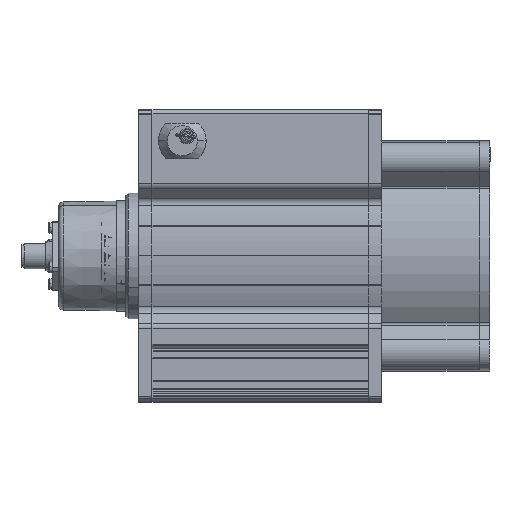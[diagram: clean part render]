
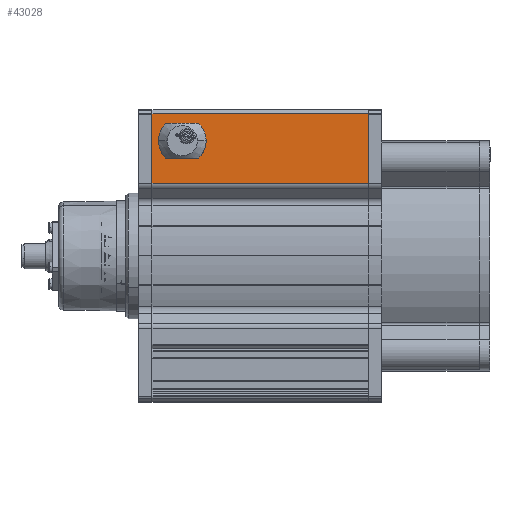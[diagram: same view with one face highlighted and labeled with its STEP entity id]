
A CAD part, top view. The second image highlights one B-rep face of the part: STEP entity #43028.
In plain terms, the highlighted planar face has unit normal (0, 0, 1).
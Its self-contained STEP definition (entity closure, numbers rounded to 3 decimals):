
#1609 = DIRECTION ( 'NONE',  ( -1., 0., 0. ) ) ;
#1610 = DIRECTION ( 'NONE',  ( 0., 0., 1. ) ) ;
#1611 = CARTESIAN_POINT ( 'NONE',  ( -59.635, 236.609, 11.701 ) ) ;
#1612 = AXIS2_PLACEMENT_3D ( 'NONE', #1611, #1610, #1609 ) ;
#1613 = CIRCLE ( 'NONE', #1612, 1.6 ) ;
#1689 = DIRECTION ( 'NONE',  ( -1., 0., 0. ) ) ;
#1690 = DIRECTION ( 'NONE',  ( 0., 0., 1. ) ) ;
#1691 = CARTESIAN_POINT ( 'NONE',  ( -76.135, 236.609, 11.701 ) ) ;
#1692 = AXIS2_PLACEMENT_3D ( 'NONE', #1691, #1690, #1689 ) ;
#1693 = CIRCLE ( 'NONE', #1692, 1.6 ) ;
#9423 = CARTESIAN_POINT ( 'NONE',  ( -81.885, 216.996, 11.701 ) ) ;
#9998 = CARTESIAN_POINT ( 'NONE',  ( -81.885, 249.136, 11.701 ) ) ;
#9999 = DIRECTION ( 'NONE',  ( 0., 1., 0. ) ) ;
#10000 = VECTOR ( 'NONE', #9999, 1000. ) ;
#10001 = CARTESIAN_POINT ( 'NONE',  ( 18.115, 216.996, 11.701 ) ) ;
#10002 = LINE ( 'NONE', #10001, #10000 ) ;
#10003 = DIRECTION ( 'NONE',  ( 0., 1., 0. ) ) ;
#10004 = VECTOR ( 'NONE', #10003, 1000. ) ;
#10005 = CARTESIAN_POINT ( 'NONE',  ( -81.885, 249.999, 11.701 ) ) ;
#10006 = LINE ( 'NONE', #10005, #10004 ) ;
#10007 = DIRECTION ( 'NONE',  ( -1., 0., 0. ) ) ;
#10008 = VECTOR ( 'NONE', #10007, 1000. ) ;
#10009 = CARTESIAN_POINT ( 'NONE',  ( -81.885, 249.136, 11.701 ) ) ;
#10010 = LINE ( 'NONE', #10009, #10008 ) ;
#10011 = CARTESIAN_POINT ( 'NONE',  ( 18.115, 249.136, 11.701 ) ) ;
#10074 = FACE_BOUND ( 'NONE', #43049, .T. ) ;
#10075 = FACE_OUTER_BOUND ( 'NONE', #43048, .T. ) ;
#10076 = FACE_BOUND ( 'NONE', #42869, .T. ) ;
#10077 = FACE_BOUND ( 'NONE', #42866, .T. ) ;
#10078 = DIRECTION ( 'NONE',  ( -1., 0., 0. ) ) ;
#10079 = VECTOR ( 'NONE', #10078, 1000. ) ;
#10080 = CARTESIAN_POINT ( 'NONE',  ( -81.885, 216.996, 11.701 ) ) ;
#10081 = LINE ( 'NONE', #10080, #10079 ) ;
#10083 = CARTESIAN_POINT ( 'NONE',  ( 18.115, 216.996, 11.701 ) ) ;
#10139 = DIRECTION ( 'NONE',  ( -1., 0., 0. ) ) ;
#10140 = DIRECTION ( 'NONE',  ( 0., 0., -1. ) ) ;
#10141 = CARTESIAN_POINT ( 'NONE',  ( -81.885, 216.996, 11.701 ) ) ;
#10142 = AXIS2_PLACEMENT_3D ( 'NONE', #10141, #10140, #10139 ) ;
#10145 = PLANE ( 'NONE',  #10142 ) ;
#12810 = DIRECTION ( 'NONE',  ( -1., 0., 0. ) ) ;
#12811 = DIRECTION ( 'NONE',  ( 0., 0., 1. ) ) ;
#12812 = CARTESIAN_POINT ( 'NONE',  ( -67.885, 236.609, 11.701 ) ) ;
#12813 = AXIS2_PLACEMENT_3D ( 'NONE', #12812, #12811, #12810 ) ;
#12814 = CIRCLE ( 'NONE', #12813, 5.5 ) ;
#41369 = EDGE_CURVE ( 'NONE', #41370, #41371, #72224, .T. ) ;
#41370 = VERTEX_POINT ( 'NONE', #72219 ) ;
#41371 = VERTEX_POINT ( 'NONE', #72218 ) ;
#41401 = EDGE_CURVE ( 'NONE', #41402, #41473, #72358, .T. ) ;
#41402 = VERTEX_POINT ( 'NONE', #72659 ) ;
#41453 = EDGE_CURVE ( 'NONE', #41454, #41455, #72590, .T. ) ;
#41454 = VERTEX_POINT ( 'NONE', #72581 ) ;
#41455 = VERTEX_POINT ( 'NONE', #72580 ) ;
#41473 = VERTEX_POINT ( 'NONE', #72998 ) ;
#42245 = EDGE_CURVE ( 'NONE', #41371, #41370, #1613, .T. ) ;
#42265 = EDGE_CURVE ( 'NONE', #41455, #41454, #1693, .T. ) ;
#42548 = EDGE_CURVE ( 'NONE', #41473, #41402, #12814, .T. ) ;
#42809 = VERTEX_POINT ( 'NONE', #9423 ) ;
#42866 = EDGE_LOOP ( 'NONE', ( #42867, #42868 ) ) ;
#42867 = ORIENTED_EDGE ( 'NONE', *, *, #41401, .F. ) ;
#42868 = ORIENTED_EDGE ( 'NONE', *, *, #42548, .F. ) ;
#42869 = EDGE_LOOP ( 'NONE', ( #42870, #42871 ) ) ;
#42870 = ORIENTED_EDGE ( 'NONE', *, *, #41453, .F. ) ;
#42871 = ORIENTED_EDGE ( 'NONE', *, *, #42265, .F. ) ;
#42962 = ORIENTED_EDGE ( 'NONE', *, *, #42245, .F. ) ;
#43025 = VERTEX_POINT ( 'NONE', #10083 ) ;
#43027 = EDGE_CURVE ( 'NONE', #43025, #42809, #10081, .T. ) ;
#43028 = ADVANCED_FACE ( 'NONE', ( #10077, #10076, #10075, #10074 ), #10145, .F. ) ;
#43039 = ORIENTED_EDGE ( 'NONE', *, *, #43041, .T. ) ;
#43040 = VERTEX_POINT ( 'NONE', #10011 ) ;
#43041 = EDGE_CURVE ( 'NONE', #43040, #43050, #10010, .T. ) ;
#43042 = ORIENTED_EDGE ( 'NONE', *, *, #43043, .F. ) ;
#43043 = EDGE_CURVE ( 'NONE', #42809, #43050, #10006, .T. ) ;
#43044 = ORIENTED_EDGE ( 'NONE', *, *, #43027, .F. ) ;
#43045 = ORIENTED_EDGE ( 'NONE', *, *, #43046, .T. ) ;
#43046 = EDGE_CURVE ( 'NONE', #43025, #43040, #10002, .T. ) ;
#43047 = ORIENTED_EDGE ( 'NONE', *, *, #41369, .F. ) ;
#43048 = EDGE_LOOP ( 'NONE', ( #43039, #43042, #43044, #43045 ) ) ;
#43049 = EDGE_LOOP ( 'NONE', ( #43047, #42962 ) ) ;
#43050 = VERTEX_POINT ( 'NONE', #9998 ) ;
#72218 = CARTESIAN_POINT ( 'NONE',  ( -58.035, 236.609, 11.701 ) ) ;
#72219 = CARTESIAN_POINT ( 'NONE',  ( -61.235, 236.609, 11.701 ) ) ;
#72220 = DIRECTION ( 'NONE',  ( -1., 0., 0. ) ) ;
#72221 = DIRECTION ( 'NONE',  ( 0., 0., 1. ) ) ;
#72222 = CARTESIAN_POINT ( 'NONE',  ( -59.635, 236.609, 11.701 ) ) ;
#72223 = AXIS2_PLACEMENT_3D ( 'NONE', #72222, #72221, #72220 ) ;
#72224 = CIRCLE ( 'NONE', #72223, 1.6 ) ;
#72358 = CIRCLE ( 'NONE', #72716, 5.5 ) ;
#72580 = CARTESIAN_POINT ( 'NONE',  ( -74.535, 236.609, 11.701 ) ) ;
#72581 = CARTESIAN_POINT ( 'NONE',  ( -77.735, 236.609, 11.701 ) ) ;
#72582 = DIRECTION ( 'NONE',  ( -1., 0., 0. ) ) ;
#72583 = DIRECTION ( 'NONE',  ( 0., 0., 1. ) ) ;
#72584 = CARTESIAN_POINT ( 'NONE',  ( -76.135, 236.609, 11.701 ) ) ;
#72585 = AXIS2_PLACEMENT_3D ( 'NONE', #72584, #72583, #72582 ) ;
#72590 = CIRCLE ( 'NONE', #72585, 1.6 ) ;
#72659 = CARTESIAN_POINT ( 'NONE',  ( -73.385, 236.609, 11.701 ) ) ;
#72663 = DIRECTION ( 'NONE',  ( -1., 0., 0. ) ) ;
#72664 = DIRECTION ( 'NONE',  ( 0., 0., 1. ) ) ;
#72715 = CARTESIAN_POINT ( 'NONE',  ( -67.885, 236.609, 11.701 ) ) ;
#72716 = AXIS2_PLACEMENT_3D ( 'NONE', #72715, #72664, #72663 ) ;
#72998 = CARTESIAN_POINT ( 'NONE',  ( -62.385, 236.609, 11.701 ) ) ;
